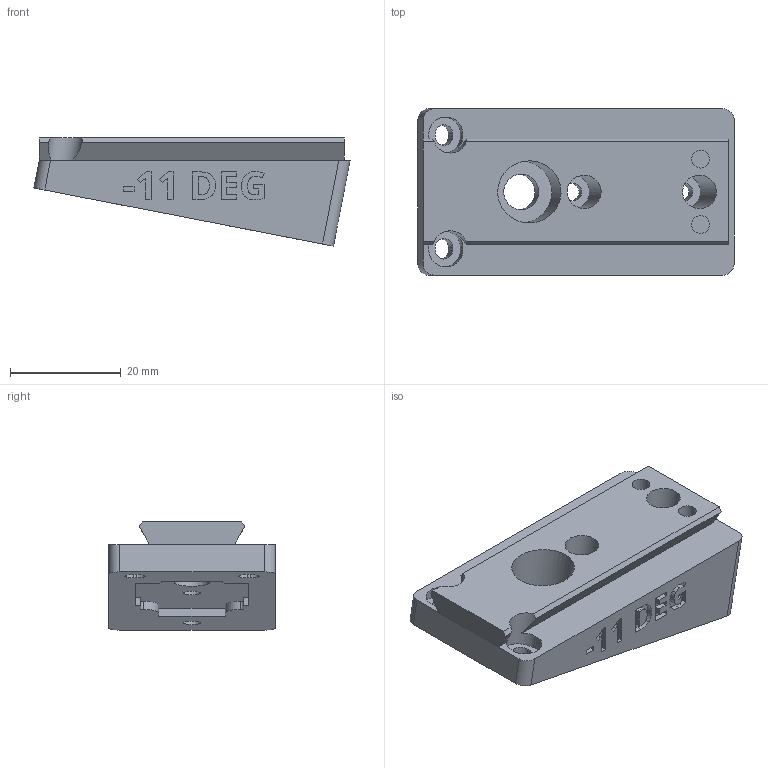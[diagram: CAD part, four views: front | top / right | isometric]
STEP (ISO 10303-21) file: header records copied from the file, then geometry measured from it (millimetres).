
FILE_DESCRIPTION(/* description */ ('STEP AP242 Edition 2','CAx-IF Rec.Pracs.---Representation and Presentation of Product Manufacturing Information (PMI)---4.0---2014-10-13','CAx-IF Rec.Pracs.---3D Tessellated Geometry---0.4---2014-09-14','2;1','CAx-IF Rec.Pracs.---User Defined Attributes---1.5---2016-08-15'),/* implementation_level */ '2;1');
FILE_NAME(/* name */ 'Camera Wedges - CAMERA MOUNTING WEDGE, NEG, -11 DEG',/* time_stamp */ '2026-07-08T20:34:22Z',/* author */ (''),/* organization */ (''),/* preprocessor_version */ 'ST-DEVELOPER v20',/* originating_system */ 'ONSHAPE BY PTC INC, 1.217',/* authorisation */ ' ');
FILE_SCHEMA (('AP242_MANAGED_MODEL_BASED_3D_ENGINEERING_MIM_LF { 1 0 10303 442 3 1 4 }'));
Length unit declared in the file: metre
Products named in the file (1): CAMERA MOUNTING WEDGE, NEG, -11 DEG
Bounding box: 56.99 x 30 x 19.51 mm (x, y, z)
Volume: 18035.4 mm3; surface area: 7202.6 mm2
Topology: 1 solids, 1 shells, 225 faces, 607 edges, 404 vertices
Faces by surface type: plane 157, cylinder 36, bspline 32
Full cylindrical faces by diameter (mm): 3.2 x4, 6 x2, 6.4 x1, 11.2 x1
Entity records: 7119 total; most frequent: CARTESIAN_POINT 1581, ORIENTED_EDGE 1198, DIRECTION 1007, EDGE_CURVE 599, LINE 451, VECTOR 451, VERTEX_POINT 404, AXIS2_PLACEMENT_3D 278
